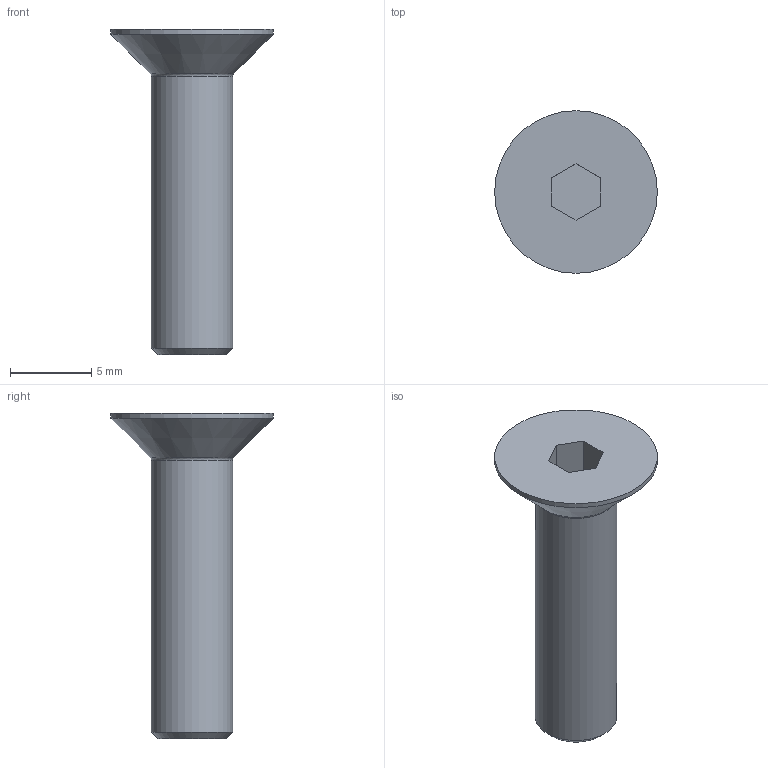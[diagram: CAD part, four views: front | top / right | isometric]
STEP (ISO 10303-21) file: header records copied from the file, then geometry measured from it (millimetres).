
FILE_DESCRIPTION((''),'2;1');
FILE_NAME('C:\Documents and Settings\Administrator\My Documents\Andys Backup Data\ANDY''S INVENTOR\INVENTOR LIBRARIES\MINITEC INVENTOR LIBRARIES\FASTENING ELEMENTS\SCREWS COUNTERSUNK\step\21.1504 M5X20 CSUNK.stp','2010-06-30T10:37:19',('Administrator'),(''),'Autodesk Inventor 2009','Autodesk Inventor 2009','');
FILE_SCHEMA(('CONFIG_CONTROL_DESIGN'));
Length unit declared in the file: millimetre
Products named in the file (1): 21.1504  M5x20 C'SUNK
Bounding box: 10 x 10 x 20 mm (x, y, z)
Volume: 456.7 mm3; surface area: 481 mm2
Topology: 1 solids, 1 shells, 14 faces, 29 edges, 18 vertices
Faces by surface type: plane 9, cone 2, cylinder 2, bspline 1
Full cylindrical faces by diameter (mm): 5 x1, 10 x1
Entity records: 399 total; most frequent: CARTESIAN_POINT 101, DIRECTION 58, ORIENTED_EDGE 48, EDGE_CURVE 24, AXIS2_PLACEMENT_3D 20, EDGE_LOOP 20, VERTEX_POINT 18, VECTOR 18
